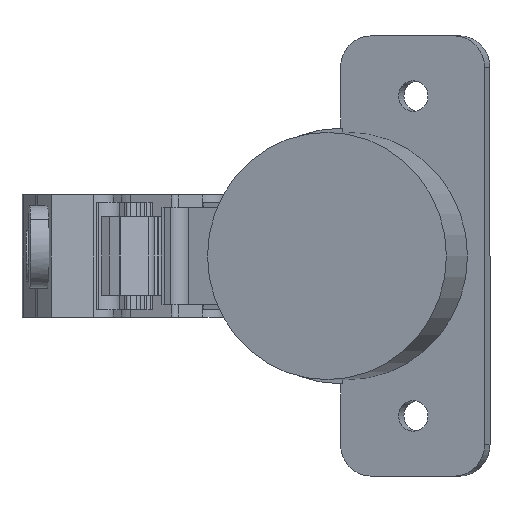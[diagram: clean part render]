
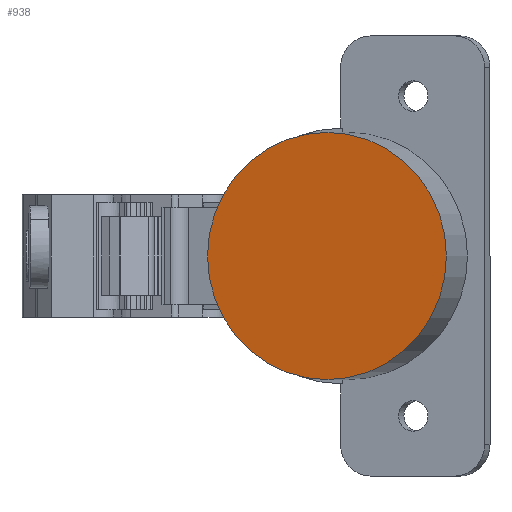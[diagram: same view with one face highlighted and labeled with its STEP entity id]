
A CAD part, left-side view. The second image highlights one B-rep face of the part: STEP entity #938.
In plain terms, the highlighted planar face has unit normal (-0.966, 0.258, 0).
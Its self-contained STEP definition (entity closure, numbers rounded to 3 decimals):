
#286 = FACE_OUTER_BOUND ( 'NONE', #625, .T. ) ;
#340 = AXIS2_PLACEMENT_3D ( 'NONE', #5060, #1484, #4667 ) ;
#421 = CIRCLE ( 'NONE', #3917, 17.4 ) ;
#455 = ORIENTED_EDGE ( 'NONE', *, *, #2909, .T. ) ;
#625 = EDGE_LOOP ( 'NONE', ( #4208, #455 ) ) ;
#689 = CARTESIAN_POINT ( 'NONE',  ( -8.657, -38.357, 0. ) ) ;
#938 = ADVANCED_FACE ( 'NONE', ( #286 ), #3465, .F. ) ;
#1029 = DIRECTION ( 'NONE',  ( -0.966, 0.257, 0. ) ) ;
#1390 = AXIS2_PLACEMENT_3D ( 'NONE', #1649, #4039, #4863 ) ;
#1484 = DIRECTION ( 'NONE',  ( 0.966, -0.257, 0. ) ) ;
#1649 = CARTESIAN_POINT ( 'NONE',  ( -8.657, -38.357, 0. ) ) ;
#1927 = EDGE_CURVE ( 'NONE', #4363, #3278, #2722, .T. ) ;
#2167 = CARTESIAN_POINT ( 'NONE',  ( -8.657, -38.357, -17.4 ) ) ;
#2417 = CARTESIAN_POINT ( 'NONE',  ( -8.657, -38.357, 17.4 ) ) ;
#2722 = CIRCLE ( 'NONE', #1390, 17.4 ) ;
#2909 = EDGE_CURVE ( 'NONE', #3278, #4363, #421, .T. ) ;
#3278 = VERTEX_POINT ( 'NONE', #2167 ) ;
#3465 = PLANE ( 'NONE',  #340 ) ;
#3890 = DIRECTION ( 'NONE',  ( 0., 0., -1. ) ) ;
#3917 = AXIS2_PLACEMENT_3D ( 'NONE', #689, #1029, #3890 ) ;
#4039 = DIRECTION ( 'NONE',  ( -0.966, 0.257, 0. ) ) ;
#4208 = ORIENTED_EDGE ( 'NONE', *, *, #1927, .T. ) ;
#4363 = VERTEX_POINT ( 'NONE', #2417 ) ;
#4667 = DIRECTION ( 'NONE',  ( 0., 0., 1. ) ) ;
#4863 = DIRECTION ( 'NONE',  ( 0., 0., -1. ) ) ;
#5060 = CARTESIAN_POINT ( 'NONE',  ( -11.481, -48.954, -7.7 ) ) ;
